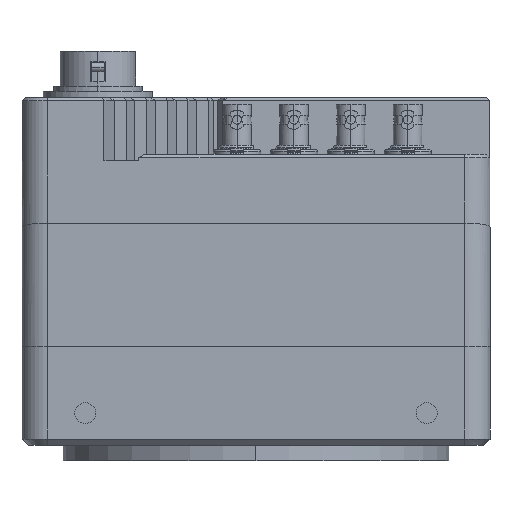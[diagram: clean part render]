
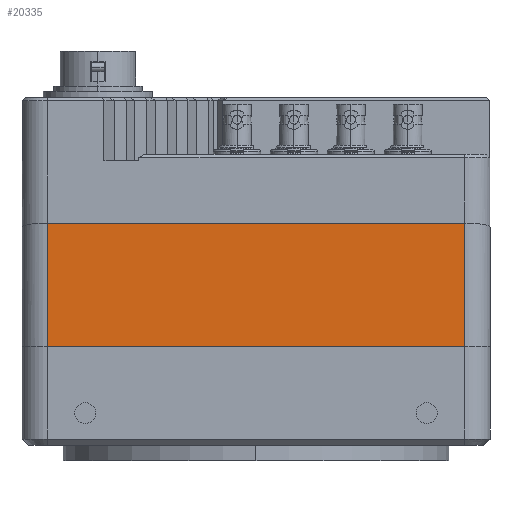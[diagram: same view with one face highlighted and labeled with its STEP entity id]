
A CAD part, left-side view. The second image highlights one B-rep face of the part: STEP entity #20335.
In plain terms, the highlighted planar face has unit normal (-1, 0, 0).
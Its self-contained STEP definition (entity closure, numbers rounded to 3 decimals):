
#8038 = DIRECTION ( 'NONE',  ( 1., 0., 0. ) ) ;
#8373 = EDGE_LOOP ( 'NONE', ( #80125, #37619, #80846, #60181 ) ) ;
#13127 = VECTOR ( 'NONE', #69779, 1000. ) ;
#18993 = PLANE ( 'NONE',  #25102 ) ;
#20335 = ADVANCED_FACE ( 'NONE', ( #124929 ), #18993, .F. ) ;
#25102 = AXIS2_PLACEMENT_3D ( 'NONE', #40505, #8038, #74973 ) ;
#34825 = CARTESIAN_POINT ( 'NONE',  ( -38.778, 152.925, 100.29 ) ) ;
#35215 = VERTEX_POINT ( 'NONE', #41192 ) ;
#37619 = ORIENTED_EDGE ( 'NONE', *, *, #122340, .T. ) ;
#38941 = CARTESIAN_POINT ( 'NONE',  ( -38.778, 29.691, 80.83 ) ) ;
#40505 = CARTESIAN_POINT ( 'NONE',  ( -38.778, -35.309, 83.83 ) ) ;
#41192 = CARTESIAN_POINT ( 'NONE',  ( -38.778, -36.309, 80.83 ) ) ;
#43164 = LINE ( 'NONE', #43522, #132499 ) ;
#43522 = CARTESIAN_POINT ( 'NONE',  ( -38.778, 29.691, 83.83 ) ) ;
#45364 = LINE ( 'NONE', #81248, #13127 ) ;
#53408 = LINE ( 'NONE', #80240, #105224 ) ;
#56551 = EDGE_CURVE ( 'NONE', #35215, #72474, #45364, .T. ) ;
#58765 = DIRECTION ( 'NONE',  ( 0., 0., 1. ) ) ;
#60181 = ORIENTED_EDGE ( 'NONE', *, *, #71857, .T. ) ;
#69779 = DIRECTION ( 'NONE',  ( 0., 1., 0. ) ) ;
#71226 = DIRECTION ( 'NONE',  ( 0., 1., 0. ) ) ;
#71857 = EDGE_CURVE ( 'NONE', #125549, #72474, #43164, .T. ) ;
#72474 = VERTEX_POINT ( 'NONE', #38941 ) ;
#74973 = DIRECTION ( 'NONE',  ( 0., 0., -1. ) ) ;
#75519 = CARTESIAN_POINT ( 'NONE',  ( -38.778, -36.309, 100.29 ) ) ;
#78299 = LINE ( 'NONE', #34825, #128277 ) ;
#80125 = ORIENTED_EDGE ( 'NONE', *, *, #56551, .F. ) ;
#80240 = CARTESIAN_POINT ( 'NONE',  ( -38.778, -36.309, 83.83 ) ) ;
#80846 = ORIENTED_EDGE ( 'NONE', *, *, #93066, .T. ) ;
#81248 = CARTESIAN_POINT ( 'NONE',  ( -38.778, -36.309, 80.83 ) ) ;
#87226 = CARTESIAN_POINT ( 'NONE',  ( -38.778, 29.691, 100.29 ) ) ;
#93066 = EDGE_CURVE ( 'NONE', #126810, #125549, #78299, .T. ) ;
#105224 = VECTOR ( 'NONE', #58765, 1000. ) ;
#122340 = EDGE_CURVE ( 'NONE', #35215, #126810, #53408, .T. ) ;
#124929 = FACE_OUTER_BOUND ( 'NONE', #8373, .T. ) ;
#125549 = VERTEX_POINT ( 'NONE', #87226 ) ;
#126810 = VERTEX_POINT ( 'NONE', #75519 ) ;
#128277 = VECTOR ( 'NONE', #71226, 1000. ) ;
#132499 = VECTOR ( 'NONE', #145781, 1000. ) ;
#145781 = DIRECTION ( 'NONE',  ( 0., 0., -1. ) ) ;
